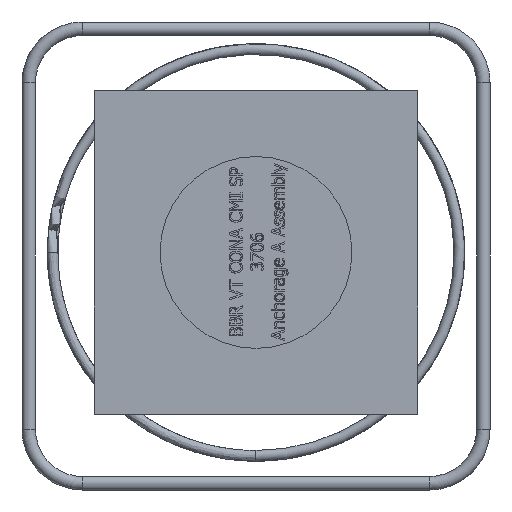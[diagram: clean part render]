
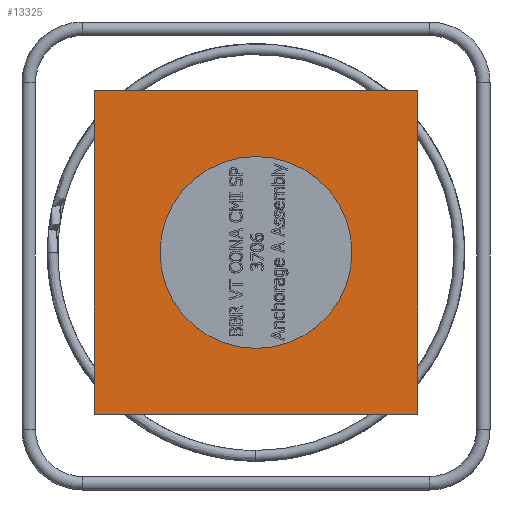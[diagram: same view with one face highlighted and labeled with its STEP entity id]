
A CAD part, left-side view. The second image highlights one B-rep face of the part: STEP entity #13325.
In plain terms, the highlighted planar face has unit normal (-1, 0, 0).
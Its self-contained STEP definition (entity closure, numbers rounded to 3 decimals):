
#1976=LINE('',#28729,#3041);
#1980=LINE('',#28736,#3045);
#1983=LINE('',#28741,#3048);
#1986=LINE('',#28745,#3051);
#3041=VECTOR('',#15873,480.);
#3045=VECTOR('',#15879,480.);
#3048=VECTOR('',#15884,480.);
#3051=VECTOR('',#15889,480.);
#3367=PLANE('',#13834);
#3554=FACE_BOUND('',#5121,.T.);
#4273=FACE_OUTER_BOUND('',#5120,.T.);
#5120=EDGE_LOOP('',(#11781,#11782,#11783,#11784));
#5121=EDGE_LOOP('',(#11785));
#5245=CIRCLE('',#13790,142.5);
#6453=VERTEX_POINT('',#23444);
#6481=VERTEX_POINT('',#28727);
#6482=VERTEX_POINT('',#28728);
#6484=VERTEX_POINT('',#28735);
#6485=VERTEX_POINT('',#28740);
#8222=EDGE_CURVE('',#6453,#6453,#5245,.T.);
#8252=EDGE_CURVE('',#6481,#6482,#1976,.T.);
#8256=EDGE_CURVE('',#6482,#6484,#1980,.T.);
#8259=EDGE_CURVE('',#6484,#6485,#1983,.T.);
#8262=EDGE_CURVE('',#6485,#6481,#1986,.T.);
#11781=ORIENTED_EDGE('',*,*,#8262,.T.);
#11782=ORIENTED_EDGE('',*,*,#8252,.T.);
#11783=ORIENTED_EDGE('',*,*,#8256,.T.);
#11784=ORIENTED_EDGE('',*,*,#8259,.T.);
#11785=ORIENTED_EDGE('',*,*,#8222,.T.);
#13325=ADVANCED_FACE('',(#4273,#3554),#3367,.T.);
#13790=AXIS2_PLACEMENT_3D('',#23445,#15785,#15786);
#13834=AXIS2_PLACEMENT_3D('',#28747,#15891,#15892);
#15785=DIRECTION('center_axis',(1.,0.,0.));
#15786=DIRECTION('ref_axis',(0.,0.,
-1.));
#15873=DIRECTION('',(0.,0.,-1.));
#15879=DIRECTION('',(0.,-1.,0.));
#15884=DIRECTION('',(0.,0.,1.));
#15889=DIRECTION('',(0.,1.,0.));
#15891=DIRECTION('center_axis',(-1.,0.,0.));
#15892=DIRECTION('ref_axis',(0.,0.,-1.));
#23444=CARTESIAN_POINT('',(-112.151,0.,-137.247));
#23445=CARTESIAN_POINT('Origin',(-112.151,0.,
5.253));
#28727=CARTESIAN_POINT('',(-112.151,240.,245.253));
#28728=CARTESIAN_POINT('',(-112.151,240.,-234.747));
#28729=CARTESIAN_POINT('',(-112.151,240.,245.253));
#28735=CARTESIAN_POINT('',(-112.151,-240.,-234.747));
#28736=CARTESIAN_POINT('',(-112.151,240.,-234.747));
#28740=CARTESIAN_POINT('',(-112.151,-240.,245.253));
#28741=CARTESIAN_POINT('',(-112.151,-240.,-234.747));
#28745=CARTESIAN_POINT('',(-112.151,-240.,245.253));
#28747=CARTESIAN_POINT('Origin',(-112.151,0.,
5.253));
